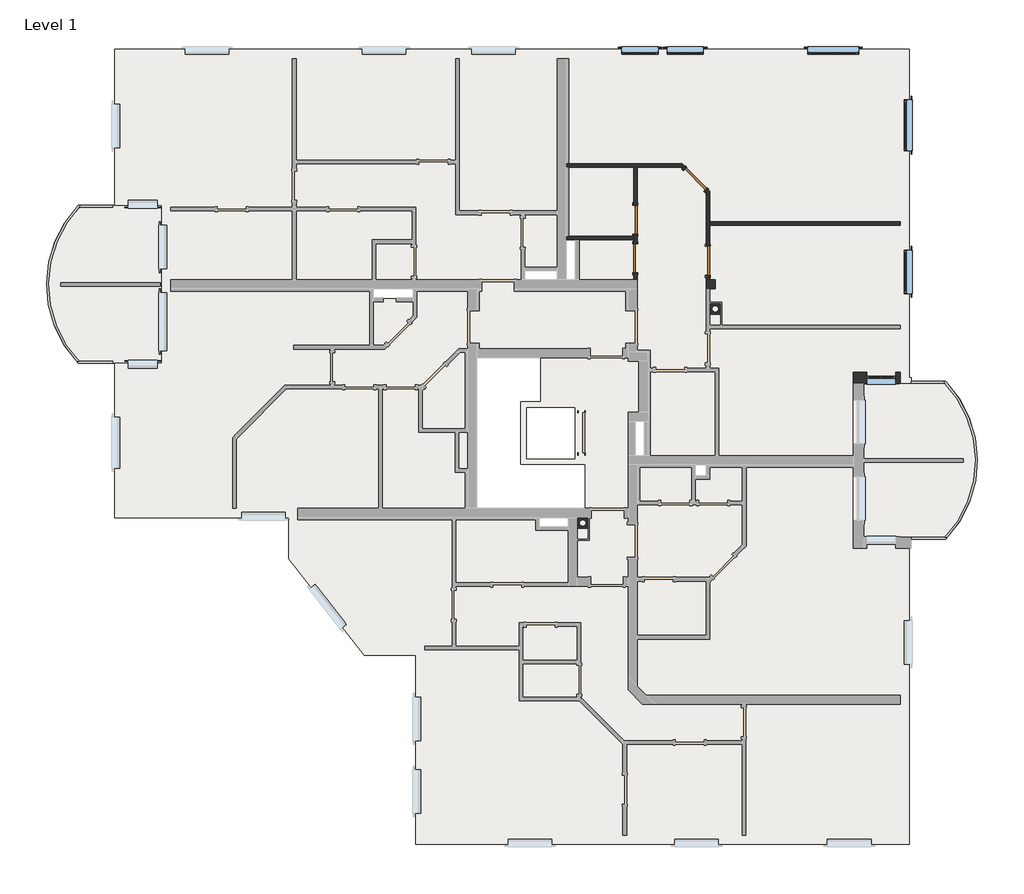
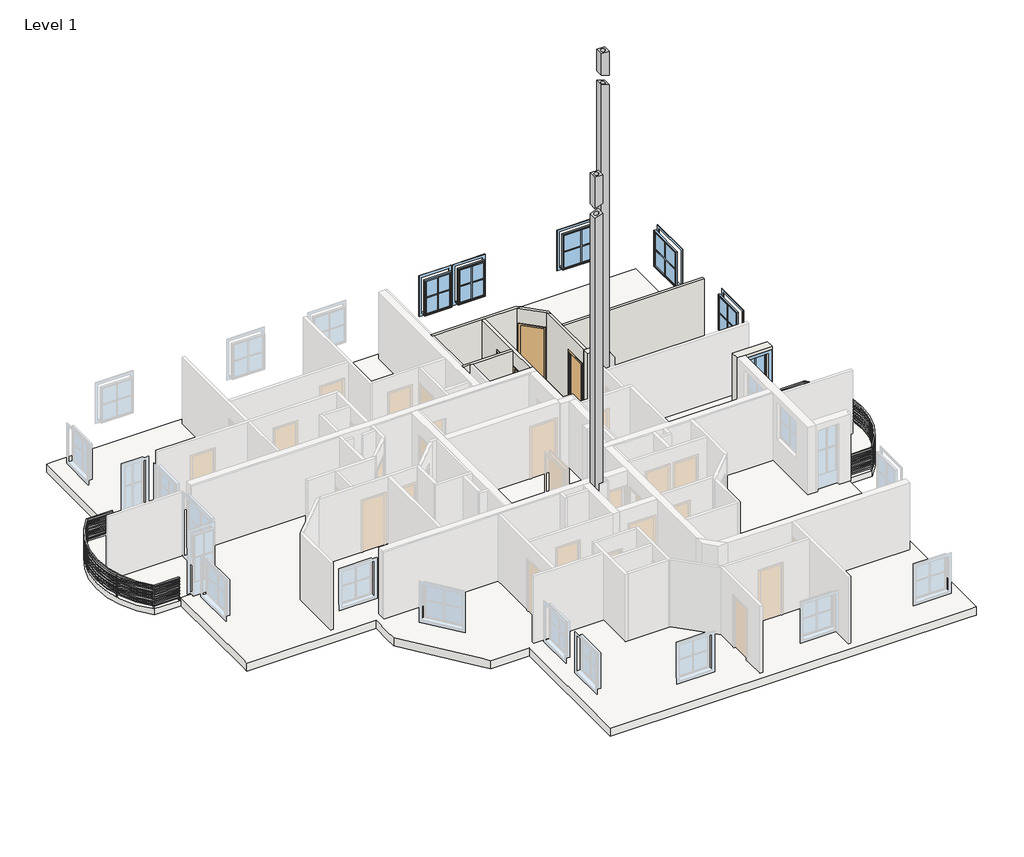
# One storey, part 4 of 4: 8 walls, 6 windows, 4 doors, 3 slabs, 2 columns, 2 railings.
"""IFC4 building model written with IfcOpenShell, lengths in millimetres."""

from ifc_helpers import new_model, si_unit, frame, origin, place, context, project, spatial, polyline, circle_curve, ellipse_curve, outline, extrude, faceted_brep, transform, mapped, element, save
from ifc_brep_helpers import plane_surface, cylinder_surface, revolved_surface, advanced_brep
from components import standard_door_sd_800x2000_80f4ff25, railing_900mm_pipe_d0f322aa, railing_900mm_pipe_71d0ca38, standard_window_with_mullions_d3525f46, standard_window_with_mullions_80486b60, standard_window_with_mullions_12e20a72, window_2_4fa60929

model = new_model("IFC4")

# Units and contexts
model_context = context("Model", 3, world=origin())
ifc_project = project(units=[si_unit("LENGTHUNIT", "METRE", prefix="MILLI")], contexts=[model_context])

# Site, building, storey
site = spatial("IfcSite", under=ifc_project)
building = spatial("IfcBuilding", under=site)
storey = spatial("IfcBuildingStorey", under=building, Name="Level 1", Elevation=2950.0)

# Columns
placement = place(None, origin())
element("IfcColumn", 1, ObjectType="AT Kamin : 300/300/160", at=placement, inside=storey, context=model_context, shape_type="AdvancedBrep", body=[
    advanced_brep(
    [(463.5618728, -2082.3709459, 17750.0), (163.5618728, -2082.3709459, 17750.0), (163.5618728, -2382.3709459, 17750.0), (463.5618728, -2382.3709459, 17750.0), (233.5618728, -2232.3709459, 17750.0), (393.5618728, -2232.3709459, 17750.0), (463.5618728, -2082.3709459, 16623.4506996), (163.5618728, -2082.3709459, 16525.9747908), (163.5618728, -2382.3709459, 16525.9747908), (463.5618728, -2382.3709459, 16623.4506996), (233.5618728, -2232.3709459, 16548.7191695), (393.5618728, -2232.3709459, 16600.7063209)],
    [
        (0, 1),
        (1, 2),
        (2, 3),
        (3, 0),
        (4, 5, circle_curve(frame((313.5618728, -2232.3709459, 17750.0), z_axis=(0.0, 0.0, -1.0), x_axis=(1.0, 0.0, 0.0)), 80.0)),
        (5, 4, circle_curve(frame((313.5618728, -2232.3709459, 17750.0), z_axis=(0.0, 0.0, -1.0), x_axis=(1.0, 0.0, 0.0)), 80.0)),
        (0, 6),
        (6, 7),
        (7, 1),
        (7, 8),
        (8, 2),
        (8, 9),
        (9, 3),
        (9, 6),
        (4, 10),
        (10, 11, ellipse_curve(frame((313.5618728, -2232.3709459, 16574.7127452), z_axis=(0.30901699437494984, 0.0, -0.9510565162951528), x_axis=(-0.9510565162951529, 0.0, -0.30901699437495)), 84.1169779, 80.0)),
        (11, 5),
        (11, 10, ellipse_curve(frame((313.5618728, -2232.3709459, 16574.7127452), z_axis=(0.30901699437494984, 0.0, -0.9510565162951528), x_axis=(-0.9510565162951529, 0.0, -0.30901699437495)), 84.1169779, 80.0)),
    ],
    [
        plane_surface(frame((163.5618728, -2082.3709459, 17750.0), z_axis=(0.0, 0.0, 1.0), x_axis=(-1.0, 0.0, 0.0))),
        plane_surface(frame((463.5618728, -2082.3709459, 17750.0), z_axis=(0.0, 1.0, 0.0), x_axis=(0.0, 0.0, -1.0))),
        plane_surface(frame((163.5618728, -2082.3709459, 17750.0), z_axis=(-1.0, 0.0, 0.0), x_axis=(0.0, 0.0, -1.0))),
        plane_surface(frame((163.5618728, -2382.3709459, 17750.0), z_axis=(0.0, -1.0, 0.0), x_axis=(0.0, 0.0, -1.0))),
        plane_surface(frame((463.5618728, -2382.3709459, 17750.0), z_axis=(1.0, 0.0, 0.0), x_axis=(0.0, 0.0, -1.0))),
        revolved_surface(polyline([(393.5618728, -2232.3709459, 16548.7191695), (393.5618728, -2232.3709459, 17750.0)]), (313.5618728, -2232.3709459, 2950.0), (0.0, 0.0, -1.0)),
        plane_surface(frame((-1841.5846805, 437.0391776, 15874.4631818), z_axis=(0.30901699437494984, 0.0, -0.9510565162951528), x_axis=(0.0, -1.0, 0.0))),
    ],
    [
        (0, [[1, 2, 3, 4], [5, 6]]),
        (1, [[-1, 7, 8, 9]]),
        (2, [[-2, -9, 10, 11]]),
        (3, [[-3, -11, 12, 13]]),
        (4, [[-4, -13, 14, -7]]),
        (5, [[-5, 15, 16, 17]]),
        (5, [[-6, -17, 18, -15]]),
        (6, [[-8, -14, -12, -10], [-16, -18]]),
    ],
),
    advanced_brep(
    [(463.5618728, -2082.3709459, 2950.0), (463.5618728, -2382.3709459, 2950.0), (163.5618728, -2382.3709459, 2950.0), (163.5618728, -2082.3709459, 2950.0), (233.5618728, -2232.3709459, 2950.0), (393.5618728, -2232.3709459, 2950.0), (463.5618728, -2082.3709459, 16244.9242989), (163.5618728, -2082.3709459, 16147.44839), (163.5618728, -2382.3709459, 16147.44839), (463.5618728, -2382.3709459, 16244.9242989), (233.5618728, -2232.3709459, 16170.1927688), (393.5618728, -2232.3709459, 16222.1799202)],
    [
        (0, 1),
        (1, 2),
        (2, 3),
        (3, 0),
        (4, 5, circle_curve(frame((313.5618728, -2232.3709459, 2950.0), z_axis=(0.0, 0.0, 1.0), x_axis=(1.0, 0.0, 0.0)), 80.0)),
        (5, 4, circle_curve(frame((313.5618728, -2232.3709459, 2950.0), z_axis=(0.0, 0.0, 1.0), x_axis=(1.0, 0.0, 0.0)), 80.0)),
        (6, 7),
        (7, 8),
        (8, 9),
        (9, 6),
        (10, 11, ellipse_curve(frame((313.5618728, -2232.3709459, 16196.1863445), z_axis=(0.30901699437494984, 0.0, -0.9510565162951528), x_axis=(-0.9510565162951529, 0.0, -0.30901699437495)), 84.1169779, 80.0)),
        (11, 10, ellipse_curve(frame((313.5618728, -2232.3709459, 16196.1863445), z_axis=(0.30901699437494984, 0.0, -0.9510565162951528), x_axis=(-0.9510565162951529, 0.0, -0.30901699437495)), 84.1169779, 80.0)),
        (3, 7),
        (6, 0),
        (2, 8),
        (1, 9),
        (5, 11),
        (10, 4),
    ],
    [
        plane_surface(frame((163.5618728, -2082.3709459, 2950.0), z_axis=(0.0, 0.0, -1.0), x_axis=(1.0, 0.0, 0.0))),
        plane_surface(frame((-1841.5846805, 437.0391776, 15495.936781), z_axis=(-0.30901699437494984, 0.0, 0.9510565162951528), x_axis=(0.0, -1.0, 0.0))),
        plane_surface(frame((463.5618728, -2082.3709459, 17750.0), z_axis=(0.0, 1.0, 0.0), x_axis=(0.0, 0.0, -1.0))),
        plane_surface(frame((163.5618728, -2082.3709459, 17750.0), z_axis=(-1.0, 0.0, 0.0), x_axis=(0.0, 0.0, -1.0))),
        plane_surface(frame((163.5618728, -2382.3709459, 17750.0), z_axis=(0.0, -1.0, 0.0), x_axis=(0.0, 0.0, -1.0))),
        plane_surface(frame((463.5618728, -2382.3709459, 17750.0), z_axis=(1.0, 0.0, 0.0), x_axis=(0.0, 0.0, -1.0))),
        revolved_surface(polyline([(393.5618728, -2232.3709459, 2950.0), (393.5618728, -2232.3709459, 16222.1799202)]), (313.5618728, -2232.3709459, 2950.0), (0.0, 0.0, -1.0)),
    ],
    [
        (0, [[1, 2, 3, 4], [5, 6]]),
        (1, [[7, 8, 9, 10], [11, 12]]),
        (2, [[-4, 13, -7, 14]]),
        (3, [[-3, 15, -8, -13]]),
        (4, [[-2, 16, -9, -15]]),
        (5, [[-1, -14, -10, -16]]),
        (6, [[-6, 17, -11, 18]]),
        (6, [[-5, -18, -12, -17]]),
    ],
),
])
element("IfcColumn", 2, ObjectType="AT Kamin : 300/300/160", at=placement, inside=storey, context=model_context, shape_type="AdvancedBrep", body=[
    advanced_brep(
    [(4112.8037835, 3816.2076978, 17750.0), (3812.8037835, 3816.2076978, 17750.0), (3812.8037835, 3516.2076978, 17750.0), (4112.8037835, 3516.2076978, 17750.0), (3882.8037835, 3666.2076978, 17750.0), (4042.8037835, 3666.2076978, 17750.0), (4112.8037835, 3816.2076978, 16807.8848523), (3812.8037835, 3816.2076978, 16905.3607612), (3812.8037835, 3516.2076978, 16905.3607612), (4112.8037835, 3516.2076978, 16807.8848523), (3882.8037835, 3666.2076978, 16882.6163825), (4042.8037835, 3666.2076978, 16830.6292311)],
    [
        (0, 1),
        (1, 2),
        (2, 3),
        (3, 0),
        (4, 5, circle_curve(frame((3962.8037835, 3666.2076978, 17750.0), z_axis=(0.0, 0.0, -1.0), x_axis=(1.0, 0.0, 0.0)), 80.0)),
        (5, 4, circle_curve(frame((3962.8037835, 3666.2076978, 17750.0), z_axis=(0.0, 0.0, -1.0), x_axis=(1.0, 0.0, 0.0)), 80.0)),
        (0, 6),
        (6, 7),
        (7, 1),
        (7, 8),
        (8, 2),
        (8, 9),
        (9, 3),
        (9, 6),
        (4, 10),
        (10, 11, ellipse_curve(frame((3962.8037835, 3666.2076978, 16856.6228068), z_axis=(-0.30901699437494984, 0.0, -0.9510565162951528), x_axis=(0.9510565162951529, 0.0, -0.30901699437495)), 84.1169779, 80.0)),
        (11, 5),
        (11, 10, ellipse_curve(frame((3962.8037835, 3666.2076978, 16856.6228068), z_axis=(-0.30901699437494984, 0.0, -0.9510565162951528), x_axis=(0.9510565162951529, 0.0, -0.30901699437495)), 84.1169779, 80.0)),
    ],
    [
        plane_surface(frame((3812.8037835, 3816.2076978, 17750.0), z_axis=(0.0, 0.0, 1.0), x_axis=(-1.0, 0.0, 0.0))),
        plane_surface(frame((4112.8037835, 3816.2076978, 17750.0), z_axis=(0.0, 1.0, 0.0), x_axis=(0.0, 0.0, -1.0))),
        plane_surface(frame((3812.8037835, 3816.2076978, 17750.0), z_axis=(-1.0, 0.0, 0.0), x_axis=(0.0, 0.0, -1.0))),
        plane_surface(frame((3812.8037835, 3516.2076978, 17750.0), z_axis=(0.0, -1.0, 0.0), x_axis=(0.0, 0.0, -1.0))),
        plane_surface(frame((4112.8037835, 3516.2076978, 17750.0), z_axis=(1.0, 0.0, 0.0), x_axis=(0.0, 0.0, -1.0))),
        revolved_surface(polyline([(4042.8037835, 3666.2076978, 16830.6292311), (4042.8037835, 3666.2076978, 17750.0)]), (3962.8037835, 3666.2076978, 2950.0), (0.0, 0.0, -1.0)),
        plane_surface(frame((6985.5802922, -11532.3709459, 15874.4631818), z_axis=(-0.30901699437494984, 0.0, -0.9510565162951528), x_axis=(0.0, 1.0, 0.0))),
    ],
    [
        (0, [[1, 2, 3, 4], [5, 6]]),
        (1, [[-1, 7, 8, 9]]),
        (2, [[-2, -9, 10, 11]]),
        (3, [[-3, -11, 12, 13]]),
        (4, [[-4, -13, 14, -7]]),
        (5, [[-5, 15, 16, 17]]),
        (5, [[-6, -17, 18, -15]]),
        (6, [[-8, -14, -12, -10], [-16, -18]]),
    ],
),
    advanced_brep(
    [(4112.8037835, 3816.2076978, 2950.0), (4112.8037835, 3516.2076978, 2950.0), (3812.8037835, 3516.2076978, 2950.0), (3812.8037835, 3816.2076978, 2950.0), (3882.8037835, 3666.2076978, 2950.0), (4042.8037835, 3666.2076978, 2950.0), (4112.8037835, 3816.2076978, 16429.3584516), (3812.8037835, 3816.2076978, 16526.8343605), (3812.8037835, 3516.2076978, 16526.8343605), (4112.8037835, 3516.2076978, 16429.3584516), (3882.8037835, 3666.2076978, 16504.0899817), (4042.8037835, 3666.2076978, 16452.1028303)],
    [
        (0, 1),
        (1, 2),
        (2, 3),
        (3, 0),
        (4, 5, circle_curve(frame((3962.8037835, 3666.2076978, 2950.0), z_axis=(0.0, 0.0, 1.0), x_axis=(1.0, 0.0, 0.0)), 80.0)),
        (5, 4, circle_curve(frame((3962.8037835, 3666.2076978, 2950.0), z_axis=(0.0, 0.0, 1.0), x_axis=(1.0, 0.0, 0.0)), 80.0)),
        (6, 7),
        (7, 8),
        (8, 9),
        (9, 6),
        (10, 11, ellipse_curve(frame((3962.8037835, 3666.2076978, 16478.096406), z_axis=(-0.30901699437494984, 0.0, -0.9510565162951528), x_axis=(0.9510565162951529, 0.0, -0.30901699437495)), 84.1169779, 80.0)),
        (11, 10, ellipse_curve(frame((3962.8037835, 3666.2076978, 16478.096406), z_axis=(-0.30901699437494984, 0.0, -0.9510565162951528), x_axis=(0.9510565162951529, 0.0, -0.30901699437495)), 84.1169779, 80.0)),
        (3, 7),
        (6, 0),
        (2, 8),
        (1, 9),
        (5, 11),
        (10, 4),
    ],
    [
        plane_surface(frame((3812.8037835, 3816.2076978, 2950.0), z_axis=(0.0, 0.0, -1.0), x_axis=(1.0, 0.0, 0.0))),
        plane_surface(frame((6985.5802922, -11532.3709459, 15495.936781), z_axis=(0.30901699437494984, 0.0, 0.9510565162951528), x_axis=(0.0, 1.0, 0.0))),
        plane_surface(frame((4112.8037835, 3816.2076978, 17750.0), z_axis=(0.0, 1.0, 0.0), x_axis=(0.0, 0.0, -1.0))),
        plane_surface(frame((3812.8037835, 3816.2076978, 17750.0), z_axis=(-1.0, 0.0, 0.0), x_axis=(0.0, 0.0, -1.0))),
        plane_surface(frame((3812.8037835, 3516.2076978, 17750.0), z_axis=(0.0, -1.0, 0.0), x_axis=(0.0, 0.0, -1.0))),
        plane_surface(frame((4112.8037835, 3516.2076978, 17750.0), z_axis=(1.0, 0.0, 0.0), x_axis=(0.0, 0.0, -1.0))),
        revolved_surface(polyline([(4042.8037835, 3666.2076978, 2950.0), (4042.8037835, 3666.2076978, 16504.0899817)]), (3962.8037835, 3666.2076978, 2950.0), (0.0, 0.0, -1.0)),
    ],
    [
        (0, [[1, 2, 3, 4], [5, 6]]),
        (1, [[7, 8, 9, 10], [11, 12]]),
        (2, [[-4, 13, -7, 14]]),
        (3, [[-3, 15, -8, -13]]),
        (4, [[-2, 16, -9, -15]]),
        (5, [[-1, -14, -10, -16]]),
        (6, [[-6, 17, -11, 18]]),
        (6, [[-5, -18, -12, -17]]),
    ],
),
])

# Doors
standard_door_sd_800x2000_shape = standard_door_sd_800x2000_80f4ff25(model_context)
element("IfcDoor", 3, ObjectType="Standard Door : SD 800x2000", at=placement, inside=storey, context=model_context, shape_type="MappedRepresentation", body=[
    mapped(standard_door_sd_800x2000_shape, transform((3762.8037835, 4988.8717038, 2950.0), x_axis=(0.0, -1.0, 0.0), y_axis=(1.0, 0.0, 0.0), z_axis=(0.0, 0.0, 1.0))),
])
element("IfcDoor", 4, ObjectType="Standard Door : SD 800x2000", at=placement, inside=storey, context=model_context, shape_type="MappedRepresentation", body=[
    mapped(standard_door_sd_800x2000_shape, transform((3410.8458954, 7240.2976203, 2950.0), x_axis=(0.7071067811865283, -0.7071067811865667, 0.0), y_axis=(0.7071067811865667, 0.7071067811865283, 0.0), z_axis=(0.0, 0.0, 1.0))),
])
element("IfcDoor", 5, ObjectType="Standard Door : SD 800x2000", at=placement, inside=storey, context=model_context, shape_type="MappedRepresentation", body=[
    mapped(standard_door_sd_800x2000_shape, transform((1762.8037835, 5063.1824611, 2950.0), x_axis=(0.0, 1.0, 0.0), y_axis=(-1.0, 0.0, 0.0), z_axis=(0.0, 0.0, 1.0))),
])
element("IfcDoor", 6, ObjectType="Standard Door : SD 800x2000", at=placement, inside=storey, context=model_context, shape_type="MappedRepresentation", body=[
    mapped(standard_door_sd_800x2000_shape, transform((1762.8037835, 6127.9240135, 2950.0), x_axis=(0.0, -1.0, 0.0), y_axis=(1.0, 0.0, 0.0), z_axis=(0.0, 0.0, 1.0))),
])

# Railings
railing_900mm_pipe_shape = railing_900mm_pipe_d0f322aa(model_context)
element("IfcRailing", 7, ObjectType="900mm Pipe", at=placement, inside=storey, context=model_context, shape_type="MappedRepresentation", body=[
    mapped(railing_900mm_pipe_shape, transform((0.0, 0.0, 0.0), x_axis=(1.0, 0.0, 0.0), y_axis=(0.0, 1.0, 0.0), z_axis=(0.0, 0.0, 1.0))),
])
railing_900mm_pipe_2_shape = railing_900mm_pipe_71d0ca38(model_context)
element("IfcRailing", 8, ObjectType="900mm Pipe", at=placement, inside=storey, context=model_context, shape_type="MappedRepresentation", body=[
    mapped(railing_900mm_pipe_2_shape, transform((0.0, 0.0, 0.0), x_axis=(1.0, 0.0, 0.0), y_axis=(0.0, 1.0, 0.0), z_axis=(0.0, 0.0, 1.0))),
])

# Slabs
element("IfcSlab", 9, ObjectType="Concrete", at=placement, inside=storey, context=model_context, shape_type="AdvancedBrep", body=[
    advanced_brep(
    [(-11287.1962165, 6517.6290541, 2630.0), (-11287.1962165, 2167.6290541, 2630.0), (-12587.1962165, 2167.6290541, 2630.0), (-12637.1962165, 2167.6290541, 2630.0), (-13585.5822754, 2167.6290541, 2630.0), (-13585.5822754, 6517.6290541, 2630.0), (-12637.1962165, 6517.6290541, 2630.0), (-12587.1962165, 6517.6290541, 2630.0), (-11287.1962165, 6517.6290541, 2850.0), (-12587.1962165, 6517.6290541, 2850.0), (-12637.1962165, 6517.6290541, 2850.0), (-13585.5822754, 6517.6290541, 2850.0), (-13585.5822754, 2167.6290541, 2850.0), (-12637.1962165, 2167.6290541, 2850.0), (-12587.1962165, 2167.6290541, 2850.0), (-12337.1962165, 2167.6290541, 2850.0), (-11287.1962165, 2167.6290541, 2850.0), (-11287.1962165, 2217.6290541, 2850.0), (-11287.1962165, 6467.6290541, 2850.0)],
    [
        (0, 1),
        (1, 2),
        (2, 3),
        (3, 4),
        (4, 5, circle_curve(frame((-11337.1962165, 4342.6290541, 2630.0), z_axis=(0.0, 0.0, -1.0), x_axis=(1.0, 0.0, 0.0)), 3128.236703)),
        (5, 6),
        (6, 7),
        (7, 0),
        (8, 9),
        (9, 10),
        (10, 11),
        (11, 12, circle_curve(frame((-11337.1962165, 4342.6290541, 2850.0), z_axis=(0.0, 0.0, 1.0), x_axis=(1.0, 0.0, 0.0)), 3128.236703)),
        (12, 13),
        (13, 14),
        (14, 15),
        (15, 16),
        (16, 17),
        (17, 18),
        (18, 8),
        (0, 8),
        (16, 1),
        (12, 4),
        (11, 5),
    ],
    [
        plane_surface(frame((-11287.1962165, 6517.6290541, 2630.0), z_axis=(0.0, 0.0, -1.0), x_axis=(0.0, -1.0, 0.0))),
        plane_surface(frame((-11287.1962165, 6517.6290541, 2850.0), z_axis=(0.0, 0.0, 1.0), x_axis=(0.0, 1.0, 0.0))),
        plane_surface(frame((-11287.1962165, 6517.6290541, 2630.0), z_axis=(1.0, 0.0, 0.0), x_axis=(0.0, 0.0, 1.0))),
        plane_surface(frame((-11287.1962165, 2167.6290541, 2630.0), z_axis=(0.0, -1.0, 0.0), x_axis=(0.0, 0.0, 1.0))),
        cylinder_surface(frame((-11337.1962165, 4342.6290541, 2850.0), z_axis=(0.0, 0.0, -1.0), x_axis=(1.0, 0.0, 0.0)), 3128.236703),
        plane_surface(frame((-13585.5822754, 6517.6290541, 2630.0), z_axis=(0.0, 1.0, 0.0), x_axis=(0.0, 0.0, 1.0))),
    ],
    [
        (0, [[1, 2, 3, 4, 5, 6, 7, 8]]),
        (1, [[9, 10, 11, 12, 13, 14, 15, 16, 17, 18, 19]]),
        (2, [[-1, 20, -19, -18, -17, 21]]),
        (3, [[-4, -3, -2, -21, -16, -15, -14, -13, 22]]),
        (4, [[-5, -22, -12, 23]]),
        (5, [[-8, -7, -6, -23, -11, -10, -9, -20]]),
    ],
),
])
element("IfcSlab", 10, ObjectType="Concrete", at=placement, inside=storey, context=model_context, shape_type="AdvancedBrep", body=[
    advanced_brep(
    [(10311.1898424, 1667.6290541, 2630.0), (10311.1898424, -2682.3709459, 2630.0), (9362.8037835, -2682.3709459, 2630.0), (8012.8037835, -2682.3709459, 2630.0), (8012.8037835, 1667.6290541, 2630.0), (9362.8037835, 1667.6290541, 2630.0), (10311.1898424, 1667.6290541, 2850.0), (9362.8037835, 1667.6290541, 2850.0), (8012.8037835, 1667.6290541, 2850.0), (8012.8037835, -2682.3709459, 2850.0), (9362.8037835, -2682.3709459, 2850.0), (10311.1898424, -2682.3709459, 2850.0)],
    [
        (0, 1, circle_curve(frame((8062.8037835, -507.3709459, 2630.0), z_axis=(0.0, 0.0, -1.0), x_axis=(1.0, 0.0, 0.0)), 3128.236703)),
        (1, 2),
        (2, 3),
        (3, 4),
        (4, 5),
        (5, 0),
        (6, 7),
        (7, 8),
        (8, 9),
        (9, 10),
        (10, 11),
        (11, 6, circle_curve(frame((8062.8037835, -507.3709459, 2850.0), z_axis=(0.0, 0.0, 1.0), x_axis=(1.0, 0.0, 0.0)), 3128.236703)),
        (0, 6),
        (11, 1),
        (9, 3),
        (8, 4),
    ],
    [
        plane_surface(frame((11191.0404865, -507.3709459, 2630.0), z_axis=(0.0, 0.0, -1.0), x_axis=(0.0, -1.0, 0.0))),
        plane_surface(frame((11191.0404865, -507.3709459, 2850.0), z_axis=(0.0, 0.0, 1.0), x_axis=(0.0, 1.0, 0.0))),
        cylinder_surface(frame((8062.8037835, -507.3709459, 2850.0), z_axis=(0.0, 0.0, -1.0), x_axis=(1.0, 0.0, 0.0)), 3128.236703),
        plane_surface(frame((10311.1898424, -2682.3709459, 2630.0), z_axis=(0.0, -1.0, 0.0), x_axis=(0.0, 0.0, 1.0))),
        plane_surface(frame((8012.8037835, -2682.3709459, 2630.0), z_axis=(-1.0, 0.0, 0.0), x_axis=(0.0, 0.0, 1.0))),
        plane_surface(frame((8012.8037835, 1667.6290541, 2630.0), z_axis=(0.0, 1.0, 0.0), x_axis=(0.0, 0.0, 1.0))),
    ],
    [
        (0, [[1, 2, 3, 4, 5, 6]]),
        (1, [[7, 8, 9, 10, 11, 12]]),
        (2, [[-1, 13, -12, 14]]),
        (3, [[-3, -2, -14, -11, -10, 15]]),
        (4, [[-4, -15, -9, 16]]),
        (5, [[-6, -5, -16, -8, -7, -13]]),
    ],
),
])
element("IfcSlab", 11, ObjectType="STB200 + 120", at=placement, inside=storey, context=model_context, shape_type="Brep", body=[
    faceted_brep([(9312.8037835, 10817.6290541, 2630.0), (9312.8037835, 10567.6290541, 2630.0), (9312.8037835, 1767.6290541, 2630.0), (9362.8037835, 1767.6290541, 2630.0), (9362.8037835, 1667.6290541, 2630.0), (8012.8037835, 1667.6290541, 2630.0), (8012.8037835, -2682.3709459, 2630.0), (9362.8037835, -2682.3709459, 2630.0), (9362.8037835, -2782.3709459, 2630.0), (9312.8037835, -2782.3709459, 2630.0), (9312.8037835, -11082.3709459, 2630.0), (9062.8037835, -11082.3709459, 2630.0), (-4287.1962165, -11082.3709459, 2630.0), (-4287.1962165, -10832.3709459, 2630.0), (-4287.1962165, -5882.3709459, 2630.0), (-4337.1962165, -5882.3709459, 2630.0), (-5712.7420262, -5882.3709459, 2630.0), (-5907.1864707, -5632.3709459, 2630.0), (-7787.1962165, -3215.2155584, 2630.0), (-7787.1962165, -2808.0100494, 2630.0), (-7787.1962165, -2082.3709459, 2630.0), (-7837.1962165, -2082.3709459, 2630.0), (-12587.1962165, -2082.3709459, 2630.0), (-12587.1962165, -1832.3709459, 2630.0), (-12587.1962165, 2167.6290541, 2630.0), (-11287.1962165, 2167.6290541, 2630.0), (-11287.1962165, 6517.6290541, 2630.0), (-12587.1962165, 6517.6290541, 2630.0), (-12587.1962165, 6767.6290541, 2630.0), (-12587.1962165, 10817.6290541, 2630.0), (-12337.1962165, 10817.6290541, 2630.0), (-2607.1962165, 2317.6290541, 2630.0), (-2607.1962165, -1832.3709459, 2630.0), (362.8037835, -1832.3709459, 2630.0), (362.8037835, -632.3709459, 2630.0), (-1407.1962165, -632.3709459, 2630.0), (-1407.1962165, 1117.6290541, 2630.0), (-857.1962165, 1117.6290541, 2630.0), (-857.1962165, 2317.6290541, 2630.0), (-387.1962165, 4717.6290541, 2630.0), (-1287.1962165, 4717.6290541, 2630.0), (-1287.1962165, 4467.6290541, 2630.0), (-387.1962165, 4467.6290541, 2630.0), (112.8037835, 4467.6290541, 2630.0), (112.8037835, 5567.6290541, 2630.0), (-137.1962165, 5567.6290541, 2630.0), (-137.1962165, 4467.6290541, 2630.0), (-4357.1962165, 4217.6290541, 2630.0), (-5457.1962165, 4217.6290541, 2630.0), (-5457.1962165, 3967.6290541, 2630.0), (-4357.1962165, 3967.6290541, 2630.0), (2012.8037835, 567.6290541, 2630.0), (1762.8087381, 567.6290541, 2630.0), (1762.8087381, -382.3709459, 2630.0), (2012.8037835, -382.3709459, 2630.0), (3712.8037835, -632.3709459, 2630.0), (3412.8037835, -632.3709459, 2630.0), (3412.8037835, -932.3709459, 2630.0), (3712.8037835, -932.3709459, 2630.0), (-86.4381272, -2082.3709459, 2630.0), (-886.4381272, -2082.3709459, 2630.0), (-886.4381272, -2332.3709459, 2630.0), (-86.4381272, -2332.3709459, 2630.0), (87.8037835, 947.6290541, 2630.0), (-1237.1962165, 947.6290541, 2630.0), (-1237.1962165, -462.3709459, 2630.0), (87.8037835, -462.3709459, 2630.0), (9312.8037835, 1767.6290541, 2950.0), (9312.8037835, 10567.6290541, 2950.0), (9312.8037835, 10817.6290541, 2950.0), (-12337.1962165, 10817.6290541, 2950.0), (-12587.1962165, 10817.6290541, 2950.0), (-12587.1962165, 6767.6290541, 2950.0), (-12587.1962165, 6517.6290541, 2950.0), (-12207.370388, 6517.6290541, 2950.0), (-11407.370388, 6517.6290541, 2950.0), (-11287.1962165, 6517.6290541, 2950.0), (-11287.1962165, 6467.6290541, 2950.0), (-11287.1962165, 4117.6290559, 2950.0), (-11287.1962165, 2517.6290559, 2950.0), (-11287.1962165, 2217.6290541, 2950.0), (-11287.1962165, 2167.6290541, 2950.0), (-11407.3703663, 2167.6290541, 2950.0), (-12207.3703663, 2167.6290541, 2950.0), (-12337.1962165, 2167.6290541, 2950.0), (-12587.1962165, 2167.6290541, 2950.0), (-12587.1962165, -1832.3709459, 2950.0), (-12587.1962165, -2082.3709459, 2950.0), (-7837.1962165, -2082.3709459, 2950.0), (-7787.1962165, -2082.3709459, 2950.0), (-7787.1962165, -2808.0100494, 2950.0), (-7787.1962165, -3215.2155584, 2950.0), (-5907.1864707, -5632.3709459, 2950.0), (-5712.7420262, -5882.3709459, 2950.0), (-4337.1962165, -5882.3709459, 2950.0), (-4287.1962165, -5882.3709459, 2950.0), (-4287.1962165, -10832.3709459, 2950.0), (-4287.1962165, -11082.3709459, 2950.0), (9062.8037835, -11082.3709459, 2950.0), (9312.8037835, -11082.3709459, 2950.0), (9312.8037835, -2782.3709459, 2950.0), (9362.8037835, -2782.3709459, 2950.0), (9362.8037835, -2632.3709459, 2950.0), (8932.977935, -2632.3709459, 2950.0), (8132.977935, -2632.3709459, 2950.0), (8062.8037835, -2632.3709459, 2950.0), (8062.8037835, 1617.6290541, 2950.0), (8132.977935, 1617.6290541, 2950.0), (8932.977935, 1617.6290541, 2950.0), (9062.8037835, 1617.6290541, 2950.0), (9362.8037835, 1617.6290541, 2950.0), (9362.8037835, 1767.6290541, 2950.0), (-2607.1962165, -1832.3709459, 2950.0), (-2607.1962165, 2317.6290541, 2950.0), (-857.1962165, 2317.6290541, 2950.0), (-857.1962165, 1117.6290541, 2950.0), (-1407.1962165, 1117.6290541, 2950.0), (-1407.1962165, -632.3709459, 2950.0), (362.8037835, -632.3709459, 2950.0), (362.8037835, -1832.3709459, 2950.0), (-1287.1962165, 4717.6290541, 2950.0), (-387.1962165, 4717.6290541, 2950.0), (-387.1962165, 4467.6290541, 2950.0), (-1287.1962165, 4467.6290541, 2950.0), (112.8037835, 5567.6290541, 2950.0), (112.8037835, 4467.6290541, 2950.0), (-137.1962165, 4467.6290541, 2950.0), (-137.1962165, 5567.6290541, 2950.0), (-5457.1962165, 4217.6290541, 2950.0), (-4357.1962165, 4217.6290541, 2950.0), (-4357.1962165, 3967.6290541, 2950.0), (-5457.1962165, 3967.6290541, 2950.0), (1762.8087381, 567.6290541, 2950.0), (2012.8037835, 567.6290541, 2950.0), (2012.8037835, -382.3709459, 2950.0), (1762.8087381, -382.3709459, 2950.0), (3412.8037835, -632.3709459, 2950.0), (3712.8037835, -632.3709459, 2950.0), (3712.8037835, -932.3709459, 2950.0), (3412.8037835, -932.3709459, 2950.0), (-886.4381272, -2082.3709459, 2950.0), (-86.4381272, -2082.3709459, 2950.0), (-86.4381272, -2332.3709459, 2950.0), (-886.4381272, -2332.3709459, 2950.0), (-1237.1962165, 947.6290541, 2950.0), (87.8037835, 947.6290541, 2950.0), (87.8037835, -462.3709459, 2950.0), (-1237.1962165, -462.3709459, 2950.0), (8062.8037835, 1617.6290541, 2850.0), (9362.8037835, 1617.6290541, 2850.0), (8062.8037835, -2632.3709459, 2850.0), (9362.8037835, -2632.3709459, 2850.0), (-12587.1962165, 2167.6290541, 2850.0), (-11287.1962165, 2167.6290541, 2850.0), (-11287.1962165, 6517.6290541, 2850.0), (-12587.1962165, 6517.6290541, 2850.0), (9362.8037835, 1667.6290541, 2850.0), (9362.8037835, -2682.3709459, 2850.0), (8012.8037835, -2682.3709459, 2850.0), (8012.8037835, 1667.6290541, 2850.0)], [[[0, 1, 2, 3, 4, 5, 6, 7, 8, 9, 10, 11, 12, 13, 14, 15, 16, 17, 18, 19, 20, 21, 22, 23, 24, 25, 26, 27, 28, 29, 30], [31, 32, 33, 34, 35, 36, 37, 38], [39, 40, 41, 42], [43, 44, 45, 46], [47, 48, 49, 50], [51, 52, 53, 54], [55, 56, 57, 58], [59, 60, 61, 62], [63, 64, 65, 66]], [[67, 68, 69, 70, 71, 72, 73, 74, 75, 76, 77, 78, 79, 80, 81, 82, 83, 84, 85, 86, 87, 88, 89, 90, 91, 92, 93, 94, 95, 96, 97, 98, 99, 100, 101, 102, 103, 104, 105, 106, 107, 108, 109, 110, 111], [112, 113, 114, 115, 116, 117, 118, 119], [120, 121, 122, 123], [124, 125, 126, 127], [128, 129, 130, 131], [132, 133, 134, 135], [136, 137, 138, 139], [140, 141, 142, 143], [144, 145, 146, 147]], [[2, 1, 0, 69, 68, 67]], [[110, 109, 108, 107, 106, 148, 149]], [[106, 105, 150, 148]], [[105, 104, 103, 102, 151, 150]], [[10, 9, 100, 99]], [[12, 11, 10, 99, 98, 97]], [[14, 13, 12, 97, 96, 95]], [[16, 15, 14, 95, 94, 93]], [[18, 17, 16, 93, 92, 91]], [[20, 19, 18, 91, 90, 89]], [[22, 21, 20, 89, 88, 87]], [[24, 23, 22, 87, 86, 85, 152]], [[25, 24, 152, 85, 84, 83, 82, 81, 153]], [[26, 25, 153, 81, 80, 79, 78, 77, 76, 154]], [[27, 26, 154, 76, 75, 74, 73, 155]], [[29, 28, 27, 155, 73, 72, 71]], [[0, 30, 29, 71, 70, 69]], [[32, 31, 113, 112]], [[33, 32, 112, 119]], [[34, 33, 119, 118]], [[35, 34, 118, 117]], [[36, 35, 117, 116]], [[37, 36, 116, 115]], [[38, 37, 115, 114]], [[31, 38, 114, 113]], [[40, 39, 121, 120]], [[41, 40, 120, 123]], [[42, 41, 123, 122]], [[39, 42, 122, 121]], [[44, 43, 125, 124]], [[45, 44, 124, 127]], [[46, 45, 127, 126]], [[43, 46, 126, 125]], [[48, 47, 129, 128]], [[49, 48, 128, 131]], [[50, 49, 131, 130]], [[47, 50, 130, 129]], [[52, 51, 133, 132]], [[53, 52, 132, 135]], [[54, 53, 135, 134]], [[51, 54, 134, 133]], [[56, 55, 137, 136]], [[57, 56, 136, 139]], [[58, 57, 139, 138]], [[55, 58, 138, 137]], [[60, 59, 141, 140]], [[61, 60, 140, 143]], [[62, 61, 143, 142]], [[59, 62, 142, 141]], [[3, 2, 67, 111]], [[111, 110, 149, 156, 4, 3]], [[102, 101, 8, 7, 157, 151]], [[9, 8, 101, 100]], [[64, 63, 145, 144]], [[65, 64, 144, 147]], [[66, 65, 147, 146]], [[63, 66, 146, 145]], [[158, 159, 156, 149, 148, 150, 151, 157]], [[6, 158, 157, 7]], [[159, 158, 6, 5]], [[159, 5, 4, 156]]]),
])

# Walls
element("IfcWall", 12, ObjectType="Exterior - 250+50mm", at=placement, inside=storey, context=model_context, shape_type="Brep", body=[
    faceted_brep([(9062.8037835, 1617.6290541, 2950.0), (8932.977935, 1617.6290541, 2950.0), (8932.977935, 1917.6290541, 2950.0), (9062.8037835, 1917.6290541, 2950.0), (8132.977935, 1617.6290541, 2950.0), (8062.8037835, 1617.6290541, 2950.0), (7762.8037835, 1617.6290541, 2950.0), (7762.8037835, 1917.6290541, 2950.0), (8132.977935, 1917.6290541, 2950.0), (8932.977935, 1917.6290541, 5350.0), (8132.977935, 1917.6290541, 5350.0), (7762.8037835, 1917.6290541, 5580.0), (9062.8037835, 1917.6290541, 5580.0), (8932.977935, 1617.6290541, 5350.0), (9062.8037835, 1617.6290541, 5580.0), (8062.8037835, 1617.6290541, 5580.0), (7762.8037835, 1617.6290541, 5580.0), (8132.977935, 1617.6290541, 5350.0)], [[[0, 1, 2, 3]], [[4, 5, 6, 7, 8]], [[3, 2, 9, 10, 8, 7, 11, 12]], [[13, 1, 0, 14, 15, 16, 6, 5, 4, 17]], [[11, 7, 6, 16]], [[3, 12, 14, 0]], [[12, 11, 16, 15, 14]], [[9, 2, 1, 13]], [[10, 9, 13, 17]], [[8, 10, 17, 4]]]),
])
element("IfcWall", 13, ObjectType="Interior - 100mm", at=placement, inside=storey, context=model_context, shape_type="Brep", body=[
    faceted_brep([(3154.2251397, 7567.6290541, 2950.0), (3012.8037835, 7567.6290541, 2950.0), (1812.8037835, 7567.6290541, 2950.0), (1712.8037835, 7567.6290541, 2950.0), (-72.1962165, 7567.6290541, 2950.0), (-137.1962165, 7567.6290541, 2950.0), (-137.1962165, 7667.6290541, 2950.0), (3054.2251397, 7667.6290541, 2950.0), (3154.2251397, 7567.6290541, 5580.0), (3012.8037835, 7567.6290541, 5580.0), (1812.8037835, 7567.6290541, 5580.0), (1712.8037835, 7567.6290541, 5580.0), (-72.1962165, 7567.6290541, 5580.0), (-137.1962165, 7567.6290541, 5580.0), (-137.1962165, 7667.6290541, 5580.0), (3054.2251397, 7667.6290541, 5580.0)], [[[0, 1, 2, 3, 4, 5, 6, 7]], [[5, 4, 3, 2, 1, 0, 8, 9, 10, 11, 12, 13]], [[6, 14, 15, 7]], [[5, 13, 14, 6]], [[8, 0, 7, 15]], [[13, 12, 11, 10, 9, 8, 15, 14]]]),
])
element("IfcWall", 14, ObjectType="Interior - 100mm", at=placement, inside=storey, context=model_context, shape_type="Brep", body=[
    faceted_brep([(3012.8037835, 7567.6290541, 2950.0), (3154.2251397, 7567.6290541, 2950.0), (3163.3585219, 7558.4956719, 2950.0), (3092.6478438, 7487.7849937, 2950.0), (3812.8037835, 6909.0504103, 2950.0), (3812.8037835, 6767.6290541, 2950.0), (3712.8037835, 6867.6290541, 2950.0), (3658.3332688, 6922.0995688, 2950.0), (3729.0439469, 6992.8102469, 2950.0), (3012.8037835, 7567.6290541, 5580.0), (3092.6478438, 7487.7849937, 4950.0), (3658.3332688, 6922.0995688, 4950.0), (3812.8037835, 6767.6290541, 5580.0), (3712.8037835, 6867.6290541, 5580.0), (3154.2251397, 7567.6290541, 5580.0), (3812.8037835, 6909.0504103, 5580.0), (3729.0439469, 6992.8102469, 4950.0), (3163.3585219, 7558.4956719, 4950.0)], [[[0, 1, 2, 3]], [[4, 5, 6, 7, 8]], [[9, 0, 3, 10, 11, 7, 6, 5, 12, 13]], [[1, 14, 15, 4, 8, 16, 17, 2]], [[0, 9, 14, 1]], [[12, 5, 4, 15]], [[9, 13, 12, 15, 14]], [[11, 16, 8, 7]], [[16, 11, 10, 17]], [[17, 10, 3, 2]]]),
])
element("IfcWall", 15, ObjectType="Interior - 100mm", at=placement, inside=storey, context=model_context, shape_type="Brep", body=[
    faceted_brep([(3712.8037835, 4467.6290541, 2950.0), (3712.8037835, 4588.8717038, 2950.0), (3812.8037835, 4588.8717038, 2950.0), (3812.8037835, 4467.6290541, 2950.0), (3712.8037835, 5388.8717038, 2950.0), (3712.8037835, 6867.6290541, 2950.0), (3812.8037835, 6767.6290541, 2950.0), (3812.8037835, 6067.6290541, 2950.0), (3812.8037835, 5967.6290541, 2950.0), (3812.8037835, 5388.8717038, 2950.0), (3712.8037835, 4588.8717038, 4950.0), (3712.8037835, 4467.6290541, 5580.0), (3712.8037835, 6867.6290541, 5580.0), (3712.8037835, 5388.8717038, 4950.0), (3812.8037835, 4588.8717038, 4950.0), (3812.8037835, 5388.8717038, 4950.0), (3812.8037835, 6767.6290541, 5580.0), (3812.8037835, 6067.6290541, 5580.0), (3812.8037835, 5967.6290541, 5580.0), (3812.8037835, 4467.6290541, 5580.0)], [[[0, 1, 2, 3]], [[4, 5, 6, 7, 8, 9]], [[10, 1, 0, 11, 12, 5, 4, 13]], [[3, 2, 14, 15, 9, 8, 7, 6, 16, 17, 18, 19]], [[5, 12, 16, 6]], [[11, 0, 3, 19]], [[12, 11, 19, 18, 17, 16]], [[14, 2, 1, 10]], [[15, 14, 10, 13]], [[9, 15, 13, 4]]]),
])
element("IfcWall", 16, ObjectType="Interior - 100mm", at=placement, inside=storey, context=model_context, shape_type="SweptSolid", body=[
    extrude(outline(polyline([(9062.8037835, 5967.6290541), (3812.8037835, 5967.6290541), (3812.8037835, 6067.6290541), (9062.8037835, 6067.6290541), (9062.8037835, 5967.6290541)])), frame((0.0, 0.0, 2950.0), z_axis=(0.0, 0.0, 1.0), x_axis=(1.0, 0.0, 0.0)), (0.0, 0.0, 1.0), 2630.0),
])
element("IfcWall", 17, ObjectType="Interior - 100mm", at=placement, inside=storey, context=model_context, shape_type="Brep", body=[
    faceted_brep([(1712.8037835, 5463.1824611, 2950.0), (1712.8037835, 5567.6290541, 2950.0), (1712.8037835, 5667.6290541, 2950.0), (1712.8037835, 5727.9240135, 2950.0), (1812.8037835, 5727.9240135, 2950.0), (1812.8037835, 5463.1824611, 2950.0), (1812.8037835, 4663.1824611, 2950.0), (1812.8037835, 4467.6290541, 2950.0), (1712.8037835, 4467.6290541, 2950.0), (1712.8037835, 4663.1824611, 2950.0), (1712.8037835, 6527.9240135, 2950.0), (1712.8037835, 7567.6290541, 2950.0), (1812.8037835, 7567.6290541, 2950.0), (1812.8037835, 6527.9240135, 2950.0), (1712.8037835, 5727.9240135, 4950.0), (1712.8037835, 5463.1824611, 4950.0), (1712.8037835, 4663.1824611, 4950.0), (1712.8037835, 4467.6290541, 5580.0), (1712.8037835, 5567.6290541, 5580.0), (1712.8037835, 5667.6290541, 5580.0), (1712.8037835, 7567.6290541, 5580.0), (1712.8037835, 6527.9240135, 4950.0), (1812.8037835, 5727.9240135, 4950.0), (1812.8037835, 6527.9240135, 4950.0), (1812.8037835, 7567.6290541, 5580.0), (1812.8037835, 4467.6290541, 5580.0), (1812.8037835, 4663.1824611, 4950.0), (1812.8037835, 5463.1824611, 4950.0)], [[[0, 1, 2, 3, 4, 5]], [[6, 7, 8, 9]], [[10, 11, 12, 13]], [[14, 3, 2, 1, 0, 15, 16, 9, 8, 17, 18, 19, 20, 11, 10, 21]], [[5, 4, 22, 23, 13, 12, 24, 25, 7, 6, 26, 27]], [[11, 20, 24, 12]], [[17, 8, 7, 25]], [[20, 19, 18, 17, 25, 24]], [[15, 0, 5, 27]], [[16, 15, 27, 26]], [[9, 16, 26, 6]], [[22, 4, 3, 14]], [[23, 22, 14, 21]], [[13, 23, 21, 10]]]),
])
element("IfcWall", 18, ObjectType="Interior - 100mm", at=placement, inside=storey, context=model_context, shape_type="Brep", body=[
    faceted_brep([(1712.8037835, 5667.6290541, 2950.0), (-137.1962165, 5667.6290541, 2950.0), (-137.1962165, 5667.6290541, 5580.0), (1712.8037835, 5667.6290541, 5580.0), (1712.8037835, 5567.6290541, 2950.0), (1712.8037835, 5567.6290541, 5580.0), (212.8037835, 5567.6290541, 5580.0), (112.8037835, 5567.6290541, 5580.0), (-137.1962165, 5567.6290541, 5580.0), (-137.1962165, 5567.6290541, 2950.0), (112.8037835, 5567.6290541, 2950.0), (212.8037835, 5567.6290541, 2950.0)], [[[0, 1, 2, 3]], [[4, 5, 6, 7, 8, 9, 10, 11]], [[1, 0, 4, 11, 10, 9]], [[2, 1, 9, 8]], [[0, 3, 5, 4]], [[3, 2, 8, 7, 6, 5]]]),
])
element("IfcWall", 19, ObjectType="Interior - 250mm", at=placement, inside=storey, context=model_context, shape_type="Brep", body=[
    faceted_brep([(3712.8037835, 4217.6290541, 2950.0), (3812.8037835, 4217.6290541, 2950.0), (3962.8037835, 4217.6290541, 2950.0), (3962.8037835, 4217.6290541, 5580.0), (3812.8037835, 4217.6290541, 5580.0), (3712.8037835, 4217.6290541, 5580.0), (3712.8037835, 4467.6290541, 2950.0), (3712.8037835, 4467.6290541, 5580.0), (3812.8037835, 4467.6290541, 5580.0), (3962.8037835, 4467.6290541, 5580.0), (3962.8037835, 4467.6290541, 2950.0), (3812.8037835, 4467.6290541, 2950.0)], [[[0, 1, 2, 3, 4, 5]], [[6, 7, 8, 9, 10, 11]], [[2, 1, 0, 6, 11, 10]], [[3, 2, 10, 9]], [[0, 5, 7, 6]], [[5, 4, 3, 9, 8, 7]]]),
])

# Windows
standard_window_with_mullions_shape = standard_window_with_mullions_d3525f46(model_context)
element("IfcWindow", 20, ObjectType="Standard Window with mullions : 1400/1400", at=placement, inside=storey, context=model_context, shape_type="MappedRepresentation", body=[
    mapped(standard_window_with_mullions_shape, transform((7214.6462462, 10717.6290541, 2950.0), x_axis=(1.0, 0.0, 0.0), y_axis=(0.0, 1.0, 0.0), z_axis=(0.0, 0.0, 1.0))),
])
element("IfcWindow", 21, ObjectType="Standard Window with mullions : 1400/1400", at=placement, inside=storey, context=model_context, shape_type="MappedRepresentation", body=[
    mapped(standard_window_with_mullions_shape, transform((9212.8037835, 8725.6927772, 2950.0), x_axis=(0.0, -1.0, 0.0), y_axis=(1.0, 0.0, 0.0), z_axis=(0.0, 0.0, 1.0))),
])
standard_window_with_mullions_2_shape = standard_window_with_mullions_80486b60(model_context)
element("IfcWindow", 22, ObjectType="Standard Window with mullions : 1200/1400", at=placement, inside=storey, context=model_context, shape_type="MappedRepresentation", body=[
    mapped(standard_window_with_mullions_2_shape, transform((9212.8037835, 4688.4530256, 2950.0), x_axis=(0.0, -1.0, 0.0), y_axis=(1.0, 0.0, 0.0), z_axis=(0.0, 0.0, 1.0))),
])
standard_window_with_mullions_3_shape = standard_window_with_mullions_12e20a72(model_context)
element("IfcWindow", 23, ObjectType="Standard Window with mullions : 1000/1400", at=placement, inside=storey, context=model_context, shape_type="MappedRepresentation", body=[
    mapped(standard_window_with_mullions_3_shape, transform((1887.8037835, 10717.6290541, 2950.0), x_axis=(1.0, 0.0, 0.0), y_axis=(0.0, 1.0, 0.0), z_axis=(0.0, 0.0, 1.0))),
])
element("IfcWindow", 24, ObjectType="Standard Window with mullions : 1000/1400", at=placement, inside=storey, context=model_context, shape_type="MappedRepresentation", body=[
    mapped(standard_window_with_mullions_3_shape, transform((3137.8037835, 10717.6290541, 2950.0), x_axis=(1.0, 0.0, 0.0), y_axis=(0.0, 1.0, 0.0), z_axis=(0.0, 0.0, 1.0))),
])
window_2_shape = window_2_4fa60929(model_context)
element("IfcWindow", 25, ObjectType="Window 2 : 800/2400", at=placement, inside=storey, context=model_context, shape_type="MappedRepresentation", body=[
    mapped(window_2_shape, transform((8532.977935, 1767.6290541, 2950.0), x_axis=(-1.0, 0.0, 0.0), y_axis=(0.0, -1.0, 0.0), z_axis=(0.0, 0.0, 1.0))),
])

save(model, "model.ifc")
